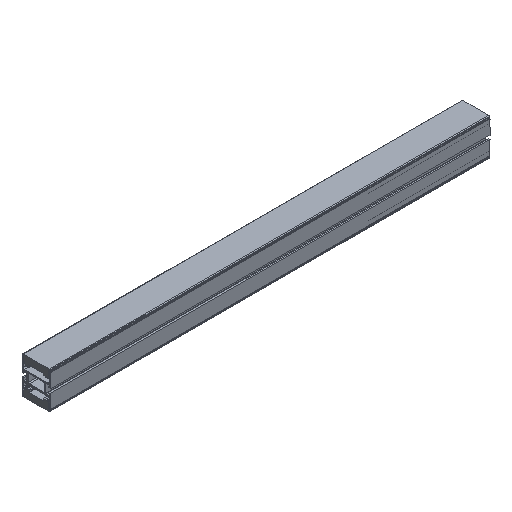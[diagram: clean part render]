
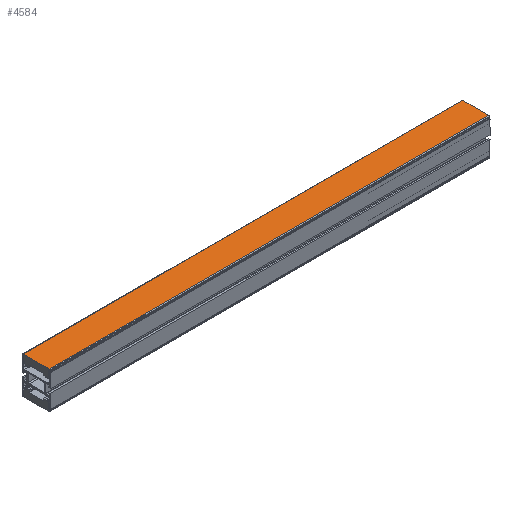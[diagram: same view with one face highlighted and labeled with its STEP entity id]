
A CAD part, isometric view. The second image highlights one B-rep face of the part: STEP entity #4584.
In plain terms, the highlighted planar face has unit normal (0, 0, 1).
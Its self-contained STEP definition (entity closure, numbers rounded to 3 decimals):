
#47 = VERTEX_POINT ( 'NONE', #3532 ) ;
#388 = CARTESIAN_POINT ( 'NONE',  ( 0., 29.5, 42. ) ) ;
#890 = EDGE_CURVE ( 'NONE', #2316, #1523, #3915, .T. ) ;
#998 = EDGE_CURVE ( 'NONE', #47, #3040, #1596, .T. ) ;
#1273 = LINE ( 'NONE', #3521, #1551 ) ;
#1523 = VERTEX_POINT ( 'NONE', #3973 ) ;
#1551 = VECTOR ( 'NONE', #4445, 1000. ) ;
#1596 = LINE ( 'NONE', #1736, #5079 ) ;
#1736 = CARTESIAN_POINT ( 'NONE',  ( 1000., 29.5, 42. ) ) ;
#1787 = EDGE_CURVE ( 'NONE', #47, #2316, #4934, .T. ) ;
#1983 = FACE_OUTER_BOUND ( 'NONE', #3549, .T. ) ;
#2030 = ORIENTED_EDGE ( 'NONE', *, *, #1787, .T. ) ;
#2034 = CARTESIAN_POINT ( 'NONE',  ( 1000., 29.5, 42. ) ) ;
#2037 = CARTESIAN_POINT ( 'NONE',  ( 1000., 29.5, 42. ) ) ;
#2061 = ORIENTED_EDGE ( 'NONE', *, *, #5043, .F. ) ;
#2316 = VERTEX_POINT ( 'NONE', #388 ) ;
#2554 = DIRECTION ( 'NONE',  ( 0., -1., 0. ) ) ;
#2817 = DIRECTION ( 'NONE',  ( 0., 1., 0. ) ) ;
#2859 = PLANE ( 'NONE',  #4996 ) ;
#3040 = VERTEX_POINT ( 'NONE', #4032 ) ;
#3430 = VECTOR ( 'NONE', #2554, 1000. ) ;
#3521 = CARTESIAN_POINT ( 'NONE',  ( 1000., -29.5, 42. ) ) ;
#3532 = CARTESIAN_POINT ( 'NONE',  ( 1000., 29.5, 42. ) ) ;
#3549 = EDGE_LOOP ( 'NONE', ( #5576, #2061, #5176, #2030 ) ) ;
#3671 = DIRECTION ( 'NONE',  ( 0., 0., -1. ) ) ;
#3677 = DIRECTION ( 'NONE',  ( -1., 0., 0. ) ) ;
#3775 = VECTOR ( 'NONE', #3677, 1000. ) ;
#3915 = LINE ( 'NONE', #5168, #3430 ) ;
#3973 = CARTESIAN_POINT ( 'NONE',  ( 0., -29.5, 42. ) ) ;
#4032 = CARTESIAN_POINT ( 'NONE',  ( 1000., -29.5, 42. ) ) ;
#4391 = DIRECTION ( 'NONE',  ( 0., -1., 0. ) ) ;
#4445 = DIRECTION ( 'NONE',  ( -1., 0., 0. ) ) ;
#4584 = ADVANCED_FACE ( 'NONE', ( #1983 ), #2859, .F. ) ;
#4934 = LINE ( 'NONE', #2034, #3775 ) ;
#4996 = AXIS2_PLACEMENT_3D ( 'NONE', #2037, #3671, #2817 ) ;
#5043 = EDGE_CURVE ( 'NONE', #3040, #1523, #1273, .T. ) ;
#5079 = VECTOR ( 'NONE', #4391, 1000. ) ;
#5168 = CARTESIAN_POINT ( 'NONE',  ( 0., 29.5, 42. ) ) ;
#5176 = ORIENTED_EDGE ( 'NONE', *, *, #998, .F. ) ;
#5576 = ORIENTED_EDGE ( 'NONE', *, *, #890, .T. ) ;
